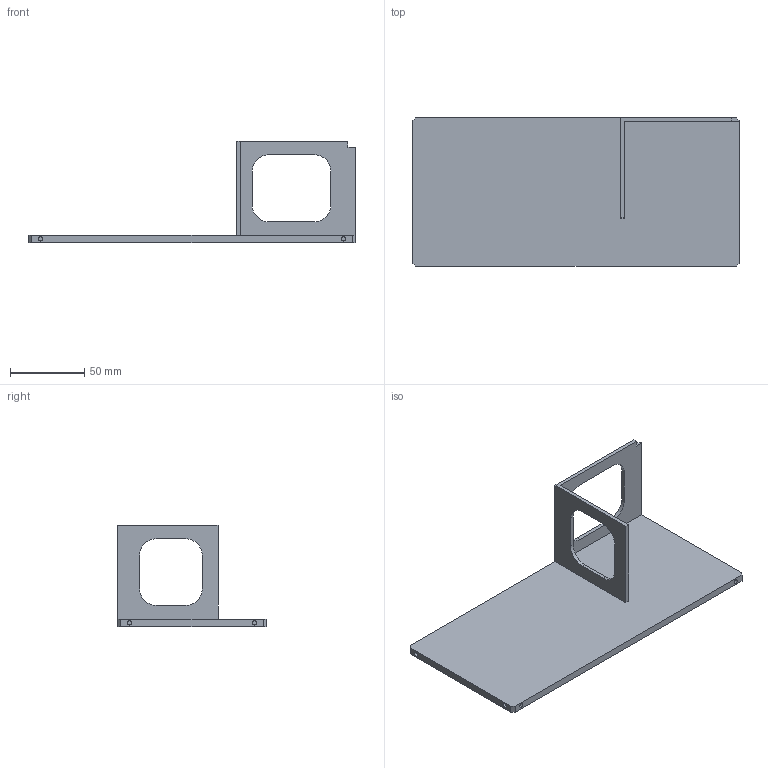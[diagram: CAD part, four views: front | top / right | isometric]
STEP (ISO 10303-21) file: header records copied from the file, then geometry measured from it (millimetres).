
FILE_DESCRIPTION(/* description */ (''),/* implementation_level */ '2;1');
FILE_NAME(/* name */ 'D:/Down/Druck/Tisch/GrundplatteV58.step',/* time_stamp */ '2022-02-09T16:39:04+07:00',/* author */ (''),/* organization */ (''),/* preprocessor_version */ 'ST-DEVELOPER v18.1',/* originating_system */ 'Autodesk Translation Framework v10.13.0.1454',/* authorisation */ '');
FILE_SCHEMA (('AUTOMOTIVE_DESIGN { 1 0 10303 214 3 1 1 }'));
Length unit declared in the file: millimetre
Products named in the file (1): Grundplatte
Bounding box: 220 x 100 x 68 mm (x, y, z)
Volume: 121368.4 mm3; surface area: 59803.5 mm2
Topology: 1 solids, 1 shells, 58 faces, 154 edges, 100 vertices
Faces by surface type: plane 34, cylinder 24
Full cylindrical faces by diameter (mm): 2.5 x1, 3 x14, 3.2 x1
Entity records: 1964 total; most frequent: CARTESIAN_POINT 414, DIRECTION 322, ORIENTED_EDGE 308, EDGE_CURVE 154, AXIS2_PLACEMENT_3D 114, VERTEX_POINT 100, LINE 94, VECTOR 94
